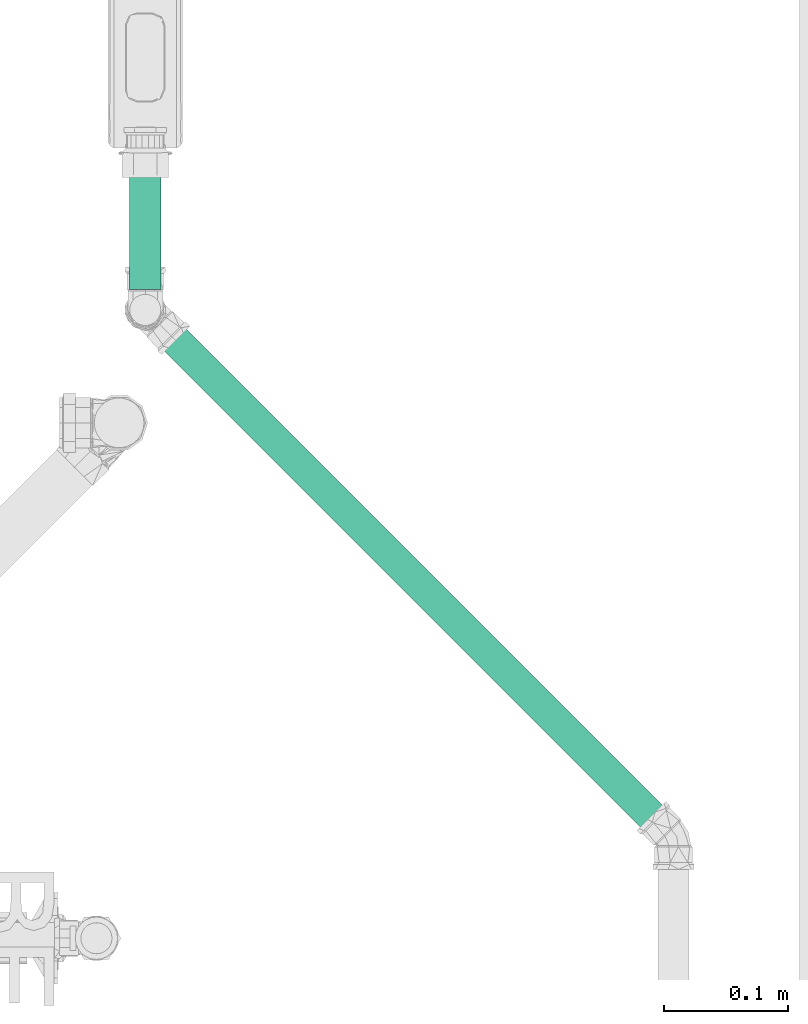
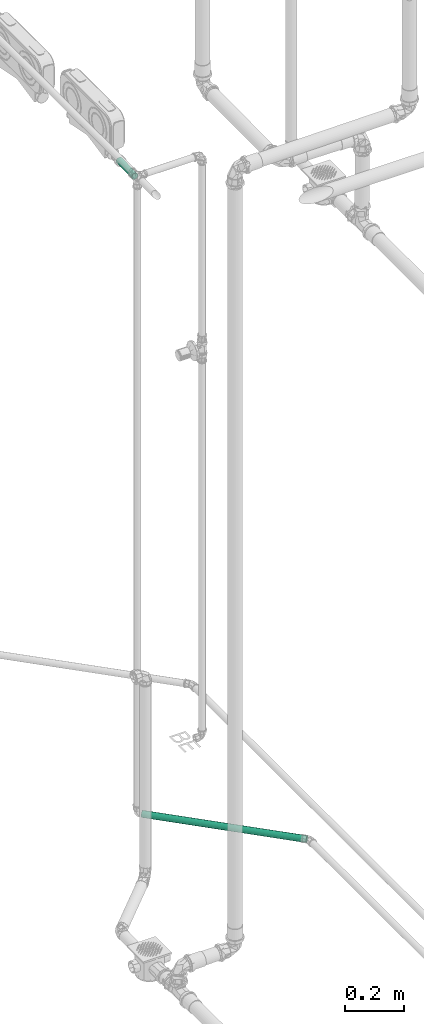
# One storey, part 151 of 589: 2 flow segments.
"""IFC2X3 building model written with IfcOpenShell, lengths in millimetres."""

from ifc_helpers import new_model, entity, si_unit, converted_unit, derived_unit, direction, frame, frame_2d, origin, origin_2d_with_axis, place, context, subcontext, project, spatial, circle, extrude, type_object, element, save


model = new_model("IFC2X3")

# Units and contexts
model_context = context("Model", 3, precision=0.01, world=origin(), true_north=direction((6.123031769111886e-17, 1.0)))
body_context = subcontext(model_context, "Body", "Model", "MODEL_VIEW")
ifc_project = project(units=[si_unit("LENGTHUNIT", "METRE", prefix="MILLI"), si_unit("AREAUNIT", "SQUARE_METRE"), si_unit("VOLUMEUNIT", "CUBIC_METRE"), converted_unit("PLANEANGLEUNIT", "DEGREE", entity("IfcRatioMeasure", 0.017453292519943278), si_unit("PLANEANGLEUNIT", "RADIAN"), dimensions=[0, 0, 0, 0, 0, 0, 0]), si_unit("MASSUNIT", "GRAM", prefix="KILO"), derived_unit("MASSDENSITYUNIT", [(si_unit("MASSUNIT", "GRAM", prefix="KILO"), 1), (si_unit("LENGTHUNIT", "METRE"), -3)]), derived_unit("IONCONCENTRATIONUNIT", [(si_unit("MASSUNIT", "GRAM", prefix="KILO"), 1), (si_unit("LENGTHUNIT", "METRE"), -3)]), derived_unit("MOMENTOFINERTIAUNIT", [(si_unit("LENGTHUNIT", "METRE"), 4)]), si_unit("TIMEUNIT", "SECOND"), si_unit("FREQUENCYUNIT", "HERTZ"), si_unit("THERMODYNAMICTEMPERATUREUNIT", "DEGREE_CELSIUS"), derived_unit("THERMALTRANSMITTANCEUNIT", [(si_unit("MASSUNIT", "GRAM", prefix="KILO"), 1), (si_unit("THERMODYNAMICTEMPERATUREUNIT", "KELVIN"), -1), (si_unit("TIMEUNIT", "SECOND"), -3)]), derived_unit("THERMALCONDUCTANCEUNIT", [(si_unit("MASSUNIT", "GRAM", prefix="KILO"), 1), (si_unit("THERMODYNAMICTEMPERATUREUNIT", "KELVIN"), -1), (si_unit("TIMEUNIT", "SECOND"), -3), (si_unit("LENGTHUNIT", "METRE"), 1)]), derived_unit("VOLUMETRICFLOWRATEUNIT", [(si_unit("LENGTHUNIT", "METRE"), 3), (si_unit("TIMEUNIT", "SECOND"), -1)]), derived_unit("MASSFLOWRATEUNIT", [(si_unit("MASSUNIT", "GRAM", prefix="KILO"), 1), (si_unit("TIMEUNIT", "SECOND"), -1)]), derived_unit("ROTATIONALFREQUENCYUNIT", [(si_unit("TIMEUNIT", "SECOND"), -1)]), si_unit("ELECTRICCURRENTUNIT", "AMPERE"), si_unit("ELECTRICVOLTAGEUNIT", "VOLT"), si_unit("POWERUNIT", "WATT"), si_unit("FORCEUNIT", "NEWTON", prefix="KILO"), si_unit("ILLUMINANCEUNIT", "LUX"), si_unit("LUMINOUSFLUXUNIT", "LUMEN"), si_unit("LUMINOUSINTENSITYUNIT", "CANDELA"), derived_unit("USERDEFINED", [(si_unit("MASSUNIT", "GRAM", prefix="KILO"), -1), (si_unit("LENGTHUNIT", "METRE"), -2), (si_unit("TIMEUNIT", "SECOND"), 3), (si_unit("LUMINOUSFLUXUNIT", "LUMEN"), 1)]), derived_unit("USERDEFINED", [(si_unit("MASSUNIT", "GRAM", prefix="KILO"), 1), (si_unit("TIMEUNIT", "SECOND"), -3), (si_unit("LENGTHUNIT", "METRE"), 3), (si_unit("ELECTRICCURRENTUNIT", "AMPERE"), -2)]), derived_unit("SOUNDPOWERUNIT", [(si_unit("MASSUNIT", "GRAM", prefix="KILO"), 1), (si_unit("TIMEUNIT", "SECOND"), -3), (si_unit("LENGTHUNIT", "METRE"), 2)]), derived_unit("SOUNDPRESSUREUNIT", [(si_unit("MASSUNIT", "GRAM", prefix="KILO"), 1), (si_unit("LENGTHUNIT", "METRE"), -1), (si_unit("TIMEUNIT", "SECOND"), -2)]), derived_unit("LINEARVELOCITYUNIT", [(si_unit("LENGTHUNIT", "METRE"), 1), (si_unit("TIMEUNIT", "SECOND"), -1)]), si_unit("PRESSUREUNIT", "PASCAL"), derived_unit("USERDEFINED", [(si_unit("MASSUNIT", "GRAM", prefix="KILO"), 1), (si_unit("LENGTHUNIT", "METRE"), -2), (si_unit("TIMEUNIT", "SECOND"), -2)]), derived_unit("LINEARFORCEUNIT", [(si_unit("MASSUNIT", "GRAM", prefix="KILO"), 1), (si_unit("TIMEUNIT", "SECOND"), -2)]), derived_unit("PLANARFORCEUNIT", [(si_unit("MASSUNIT", "GRAM", prefix="KILO"), 1), (si_unit("LENGTHUNIT", "METRE"), -1), (si_unit("TIMEUNIT", "SECOND"), -2)]), derived_unit("SPECIFICHEATCAPACITYUNIT", [(si_unit("THERMODYNAMICTEMPERATUREUNIT", "KELVIN"), -1), (si_unit("LENGTHUNIT", "METRE"), 2), (si_unit("TIMEUNIT", "SECOND"), -2)]), derived_unit("HEATINGVALUEUNIT", [(si_unit("LENGTHUNIT", "METRE"), 2), (si_unit("TIMEUNIT", "SECOND"), -2)]), derived_unit("VAPORPERMEABILITYUNIT", [(si_unit("LENGTHUNIT", "METRE"), -1), (si_unit("TIMEUNIT", "SECOND"), 1)]), derived_unit("DYNAMICVISCOSITYUNIT", [(si_unit("MASSUNIT", "GRAM", prefix="KILO"), 1), (si_unit("TIMEUNIT", "SECOND"), -1), (si_unit("LENGTHUNIT", "METRE"), -1)]), derived_unit("THERMALEXPANSIONCOEFFICIENTUNIT", [(si_unit("THERMODYNAMICTEMPERATUREUNIT", "KELVIN"), -1)]), derived_unit("MODULUSOFELASTICITYUNIT", [(si_unit("MASSUNIT", "GRAM", prefix="KILO"), 1), (si_unit("LENGTHUNIT", "METRE"), -1), (si_unit("TIMEUNIT", "SECOND"), -2)]), derived_unit("ISOTHERMALMOISTURECAPACITYUNIT", [(si_unit("LENGTHUNIT", "METRE"), 3), (si_unit("MASSUNIT", "GRAM", prefix="KILO"), -1)]), derived_unit("MOISTUREDIFFUSIVITYUNIT", [(si_unit("TIMEUNIT", "SECOND"), -1), (si_unit("LENGTHUNIT", "METRE"), 2)])], contexts=[model_context])

# Site, building, storey
site_placement = place(None, origin())
site = spatial("IfcSite", under=ifc_project, at=site_placement, Name="Default", CompositionType="ELEMENT")
building_placement = place(site_placement, origin())
building = spatial("IfcBuilding", under=site, at=building_placement, CompositionType="ELEMENT")
storey_placement = place(building_placement, frame((0.0, 0.0, 100.0)))
storey = spatial("IfcBuildingStorey", under=building, at=storey_placement, Name="TÉRREO", CompositionType="ELEMENT", Elevation=100.0)

# Flow segments
pipe_segment_type = type_object("IfcPipeSegmentType", Name="Tipos de tubos:PVC Marrom Soldável", PredefinedType="NOTDEFINED")
flow_segment_1_placement = place(storey_placement, origin())
element("IfcFlowSegment", 1, at=flow_segment_1_placement, inside=storey, type_object=pipe_segment_type, Name="Tipos de tubos:PVC Marrom Soldável", ObjectType="Tipos de tubos:PVC Marrom Soldável", context=body_context, shape_type="SweptSolid", body=[
    extrude(circle(Radius=12.5, at=frame_2d((-7.656938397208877e-13, 5.0525023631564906e-08), x_axis=(1.0, 0.0))), frame((8120.152984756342, -8129.039392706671, -37.35698021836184), z_axis=(-0.7071067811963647, 0.7071067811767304, 0.0), x_axis=(-0.7071067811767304, -0.7071067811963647, 0.0)), (0.0, 0.0, 1.0), 576.3353397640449),
])
flow_segment_2_placement = place(storey_placement, origin())
element("IfcFlowSegment", 2, at=flow_segment_2_placement, inside=storey, type_object=pipe_segment_type, Name="Tipos de tubos:PVC Marrom Soldável", ObjectType="Tipos de tubos:PVC Marrom Soldável", context=body_context, shape_type="SweptSolid", body=[
    extrude(circle(Radius=12.5, at=origin_2d_with_axis()), frame((7700.884395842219, -7693.322283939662, 2576.538742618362), z_axis=(0.0, 0.9999500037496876, 0.009999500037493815), x_axis=(-1.0, 0.0, 0.0)), (0.0, 0.0, 1.0), 106.10504561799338),
])

save(model, "model.ifc")
